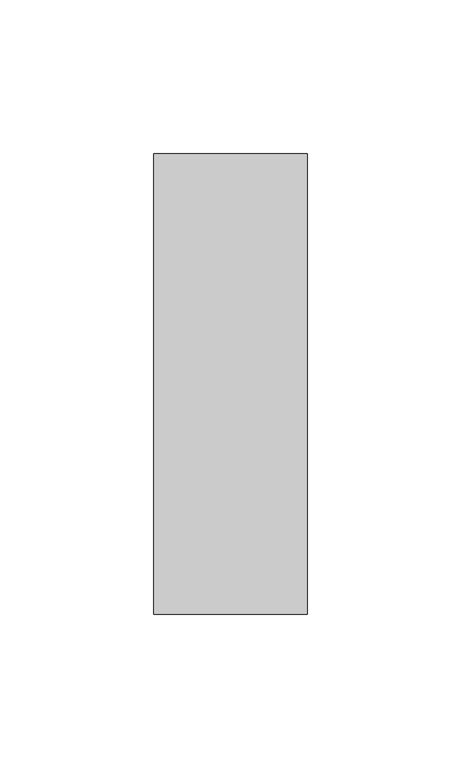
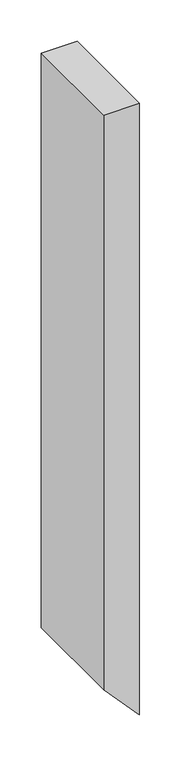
"""IFC4 building model written with IfcOpenShell, lengths in millimetres: member geometry, Прямоугольный импост : 50 x 150 мм."""

from ifc_helpers import new_model, si_unit, frame, origin, place, context, project, spatial, polyline, outline, extrude, source, transform, mapped, element, save


def member_66d90a95(model_context):
    return source(origin(), model_context, "Body", "SweptSolid", [
        extrude(outline(polyline([(0.0, 25.0), (0.0, -25.0), (-846.8177074, -25.0), (-901.1199485, 25.0), (0.0, 25.0)])), frame((0.0, -75.0, 0.0), z_axis=(0.0, 1.0, 0.0), x_axis=(0.0, 0.0, 1.0)), (0.0, 0.0, 1.0), 150.0),
    ])


if __name__ == "__main__":
    model = new_model("IFC4")
    model_context = context("Model", 3, world=origin())
    ifc_project = project(units=[si_unit("LENGTHUNIT", "METRE", prefix="MILLI")], contexts=[model_context])
    site = spatial("IfcSite", under=ifc_project)
    building = spatial("IfcBuilding", under=site)
    placement = place(None, origin())
    member_shape = member_66d90a95(model_context)
    element("IfcMember", 1, ObjectType="Прямоугольный импост : 50 x 150 мм", at=placement, inside=building, context=model_context, shape_type="MappedRepresentation", body=[
        mapped(member_shape, transform((0.0, 0.0, 0.0), x_axis=(1.0, 0.0, 0.0), y_axis=(0.0, 1.0, 0.0), z_axis=(0.0, 0.0, 1.0))),
    ])
    save(model, "model.ifc")
